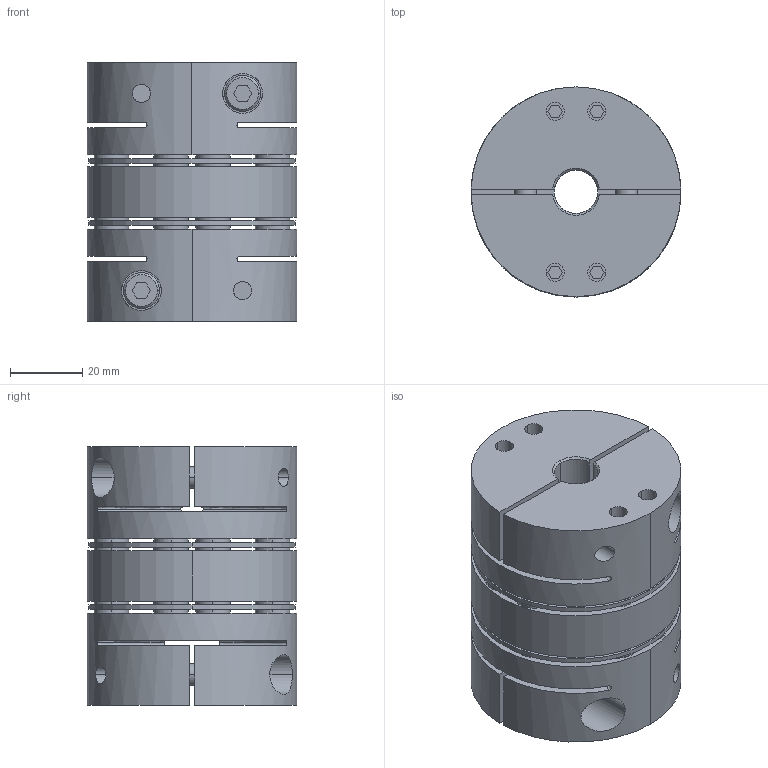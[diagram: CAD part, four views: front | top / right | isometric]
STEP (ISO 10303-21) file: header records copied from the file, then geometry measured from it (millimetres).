
FILE_DESCRIPTION((''),'2;1');
FILE_NAME('TAD-58C-12×19.stp','2022-11-13T21:48:08',(''),(''),'AutoCAD STEP 2000i','AutoCAD 2000i',', , ');
FILE_SCHEMA(('CONFIG_CONTROL_DESIGN'));
Length unit declared in the file: millimetre
Products named in the file (6): TAD-58C-12×12; 忣兜1; TA58C-12-2; CAP-M6×20; TA58C-12; TAS-58C-ITA
Assembly tree (6 placements, depth 3):
  TAD-58C-12×12
    忣兜1
    TA58C-12-2
      CAP-M6×20
    TA58C-12
      CAP-M6×20
    TAS-58C-ITA
Bounding box: 58 x 58 x 71.5 mm (x, y, z)
Volume: 138567.1 mm3; surface area: 56316.5 mm2
Topology: 1 solids, 5 shells, 568 faces, 1358 edges, 920 vertices
Faces by surface type: plane 252, cylinder 228, cone 72, bspline 16
Entity records: 18757 total; most frequent: CARTESIAN_POINT 4975, DIRECTION 2994, ORIENTED_EDGE 2640, EDGE_CURVE 1320, AXIS2_PLACEMENT_3D 1139, VERTEX_POINT 860, EDGE_LOOP 724, VECTOR 716
